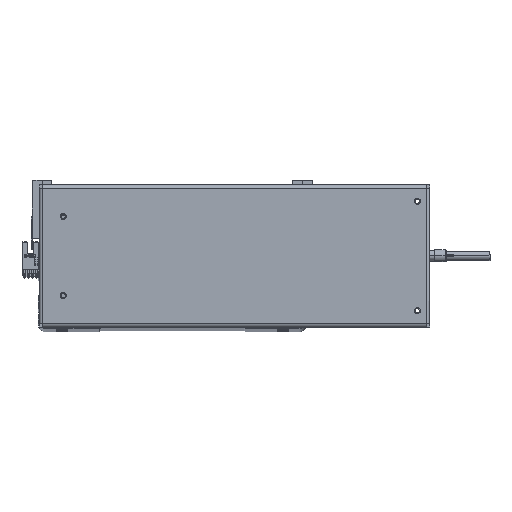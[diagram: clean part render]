
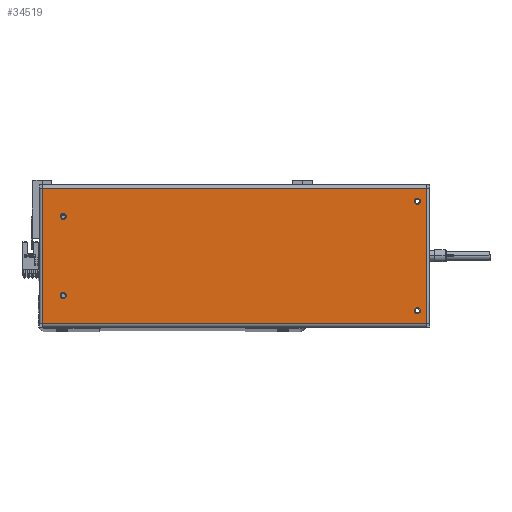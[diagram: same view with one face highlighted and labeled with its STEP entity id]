
A CAD part, top view. The second image highlights one B-rep face of the part: STEP entity #34519.
In plain terms, the highlighted planar face has unit normal (0, 0, 1).
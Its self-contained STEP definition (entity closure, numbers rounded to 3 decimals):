
#587 = CARTESIAN_POINT ( 'NONE',  ( 150.5, -45., 0. ) ) ;
#1241 = VECTOR ( 'NONE', #33676, 1000. ) ;
#1932 = FACE_BOUND ( 'NONE', #41224, .T. ) ;
#1953 = EDGE_CURVE ( 'NONE', #12573, #27559, #17876, .T. ) ;
#2534 = CARTESIAN_POINT ( 'NONE',  ( -138., 32.5, 0. ) ) ;
#2546 = DIRECTION ( 'NONE',  ( 1., 0., 0. ) ) ;
#2607 = DIRECTION ( 'NONE',  ( 1., 0., 0. ) ) ;
#2911 = EDGE_CURVE ( 'NONE', #24213, #3886, #33008, .T. ) ;
#2937 = FACE_BOUND ( 'NONE', #10547, .T. ) ;
#3055 = DIRECTION ( 'NONE',  ( 0., 0., 1. ) ) ;
#3086 = CARTESIAN_POINT ( 'NONE',  ( -140.5, -32.5, 0. ) ) ;
#3168 = ORIENTED_EDGE ( 'NONE', *, *, #4882, .F. ) ;
#3660 = VECTOR ( 'NONE', #36083, 1000. ) ;
#3886 = VERTEX_POINT ( 'NONE', #17372 ) ;
#3919 = CIRCLE ( 'NONE', #40780, 2.5 ) ;
#4882 = EDGE_CURVE ( 'NONE', #41154, #41858, #3919, .T. ) ;
#5428 = CARTESIAN_POINT ( 'NONE',  ( 157.7, 58.5, 0. ) ) ;
#5900 = CARTESIAN_POINT ( 'NONE',  ( 157.6, 55.6, 0. ) ) ;
#6044 = EDGE_CURVE ( 'NONE', #41183, #26625, #29215, .T. ) ;
#6529 = ORIENTED_EDGE ( 'NONE', *, *, #41698, .F. ) ;
#6560 = ORIENTED_EDGE ( 'NONE', *, *, #6044, .F. ) ;
#8013 = FACE_BOUND ( 'NONE', #15443, .T. ) ;
#8302 = CARTESIAN_POINT ( 'NONE',  ( 157.6, -55.6, 0. ) ) ;
#8745 = ORIENTED_EDGE ( 'NONE', *, *, #18972, .F. ) ;
#8859 = CARTESIAN_POINT ( 'NONE',  ( 150.5, 45., 0. ) ) ;
#9713 = CARTESIAN_POINT ( 'NONE',  ( 150.5, -45., 0. ) ) ;
#9892 = AXIS2_PLACEMENT_3D ( 'NONE', #9713, #3055, #13144 ) ;
#10547 = EDGE_LOOP ( 'NONE', ( #6560, #36354 ) ) ;
#10580 = VERTEX_POINT ( 'NONE', #13631 ) ;
#10664 = CARTESIAN_POINT ( 'NONE',  ( -140.5, 32.5, 0. ) ) ;
#10845 = CARTESIAN_POINT ( 'NONE',  ( 150.5, 45., 0. ) ) ;
#11191 = EDGE_CURVE ( 'NONE', #18838, #10580, #22141, .T. ) ;
#11472 = CARTESIAN_POINT ( 'NONE',  ( -143., 32.5, 0. ) ) ;
#12573 = VERTEX_POINT ( 'NONE', #38526 ) ;
#12683 = CARTESIAN_POINT ( 'NONE',  ( -143., -32.5, 0. ) ) ;
#12719 = DIRECTION ( 'NONE',  ( 1., 0., 0. ) ) ;
#13144 = DIRECTION ( 'NONE',  ( 1., 0., 0. ) ) ;
#13631 = CARTESIAN_POINT ( 'NONE',  ( 153., 45., 0. ) ) ;
#15270 = ORIENTED_EDGE ( 'NONE', *, *, #2911, .F. ) ;
#15443 = EDGE_LOOP ( 'NONE', ( #3168, #8745 ) ) ;
#15535 = AXIS2_PLACEMENT_3D ( 'NONE', #40867, #24651, #12719 ) ;
#15558 = DIRECTION ( 'NONE',  ( 0., 0., 1. ) ) ;
#15765 = CARTESIAN_POINT ( 'NONE',  ( -140.5, -32.5, 0. ) ) ;
#15932 = EDGE_LOOP ( 'NONE', ( #15270, #36258 ) ) ;
#16208 = AXIS2_PLACEMENT_3D ( 'NONE', #5428, #40795, #25000 ) ;
#16461 = EDGE_LOOP ( 'NONE', ( #40563, #35299, #21064, #36675 ) ) ;
#16986 = CARTESIAN_POINT ( 'NONE',  ( 153., -45., 0. ) ) ;
#17229 = DIRECTION ( 'NONE',  ( 0., 0., 1. ) ) ;
#17372 = CARTESIAN_POINT ( 'NONE',  ( 148., -45., 0. ) ) ;
#17837 = AXIS2_PLACEMENT_3D ( 'NONE', #10845, #27064, #20817 ) ;
#17876 = LINE ( 'NONE', #39213, #3660 ) ;
#18838 = VERTEX_POINT ( 'NONE', #23928 ) ;
#18972 = EDGE_CURVE ( 'NONE', #41858, #41154, #19943, .T. ) ;
#19922 = ORIENTED_EDGE ( 'NONE', *, *, #11191, .F. ) ;
#19943 = CIRCLE ( 'NONE', #34370, 2.5 ) ;
#20817 = DIRECTION ( 'NONE',  ( 1., 0., 0. ) ) ;
#20872 = EDGE_CURVE ( 'NONE', #27559, #25693, #22146, .T. ) ;
#21064 = ORIENTED_EDGE ( 'NONE', *, *, #20872, .T. ) ;
#21216 = CARTESIAN_POINT ( 'NONE',  ( -157.6, 55.6, 0. ) ) ;
#21350 = VERTEX_POINT ( 'NONE', #21216 ) ;
#21717 = CARTESIAN_POINT ( 'NONE',  ( -138., -32.5, 0. ) ) ;
#22141 = CIRCLE ( 'NONE', #17837, 2.5 ) ;
#22146 = LINE ( 'NONE', #38304, #32274 ) ;
#23072 = AXIS2_PLACEMENT_3D ( 'NONE', #587, #17229, #39678 ) ;
#23899 = CARTESIAN_POINT ( 'NONE',  ( 157.7, 55.6, 0. ) ) ;
#23928 = CARTESIAN_POINT ( 'NONE',  ( 148., 45., 0. ) ) ;
#24213 = VERTEX_POINT ( 'NONE', #16986 ) ;
#24591 = PLANE ( 'NONE',  #16208 ) ;
#24651 = DIRECTION ( 'NONE',  ( 0., 0., 1. ) ) ;
#24916 = DIRECTION ( 'NONE',  ( 0., 1., 0. ) ) ;
#25000 = DIRECTION ( 'NONE',  ( -1., 0., 0. ) ) ;
#25068 = CIRCLE ( 'NONE', #36559, 2.5 ) ;
#25119 = DIRECTION ( 'NONE',  ( 0., 0., 1. ) ) ;
#25693 = VERTEX_POINT ( 'NONE', #5900 ) ;
#25694 = EDGE_CURVE ( 'NONE', #21350, #12573, #36035, .T. ) ;
#25810 = DIRECTION ( 'NONE',  ( 0., 0., 1. ) ) ;
#25952 = AXIS2_PLACEMENT_3D ( 'NONE', #10664, #39981, #40251 ) ;
#26625 = VERTEX_POINT ( 'NONE', #11472 ) ;
#27064 = DIRECTION ( 'NONE',  ( 0., 0., 1. ) ) ;
#27175 = LINE ( 'NONE', #23899, #1241 ) ;
#27368 = VECTOR ( 'NONE', #41422, 1000. ) ;
#27559 = VERTEX_POINT ( 'NONE', #8302 ) ;
#29085 = DIRECTION ( 'NONE',  ( 1., 0., 0. ) ) ;
#29215 = CIRCLE ( 'NONE', #15535, 2.5 ) ;
#29902 = FACE_OUTER_BOUND ( 'NONE', #16461, .T. ) ;
#31876 = CARTESIAN_POINT ( 'NONE',  ( -157.6, 55.6, 0. ) ) ;
#32274 = VECTOR ( 'NONE', #24916, 1000. ) ;
#33008 = CIRCLE ( 'NONE', #23072, 2.5 ) ;
#33676 = DIRECTION ( 'NONE',  ( -1., 0., 0. ) ) ;
#34084 = EDGE_CURVE ( 'NONE', #3886, #24213, #34480, .T. ) ;
#34370 = AXIS2_PLACEMENT_3D ( 'NONE', #3086, #25810, #29085 ) ;
#34480 = CIRCLE ( 'NONE', #9892, 2.5 ) ;
#34519 = ADVANCED_FACE ( 'NONE', ( #8013, #2937, #41576, #1932, #29902 ), #24591, .F. ) ;
#35299 = ORIENTED_EDGE ( 'NONE', *, *, #1953, .T. ) ;
#36035 = LINE ( 'NONE', #31876, #27368 ) ;
#36083 = DIRECTION ( 'NONE',  ( 1., 0., 0. ) ) ;
#36258 = ORIENTED_EDGE ( 'NONE', *, *, #34084, .F. ) ;
#36354 = ORIENTED_EDGE ( 'NONE', *, *, #42064, .F. ) ;
#36559 = AXIS2_PLACEMENT_3D ( 'NONE', #8859, #15558, #2607 ) ;
#36675 = ORIENTED_EDGE ( 'NONE', *, *, #40774, .T. ) ;
#38304 = CARTESIAN_POINT ( 'NONE',  ( 157.6, -55.6, 0. ) ) ;
#38526 = CARTESIAN_POINT ( 'NONE',  ( -157.6, -55.6, 0. ) ) ;
#39213 = CARTESIAN_POINT ( 'NONE',  ( -157.7, -55.6, 0. ) ) ;
#39678 = DIRECTION ( 'NONE',  ( 1., 0., 0. ) ) ;
#39981 = DIRECTION ( 'NONE',  ( 0., 0., 1. ) ) ;
#40251 = DIRECTION ( 'NONE',  ( 1., 0., 0. ) ) ;
#40563 = ORIENTED_EDGE ( 'NONE', *, *, #25694, .T. ) ;
#40774 = EDGE_CURVE ( 'NONE', #25693, #21350, #27175, .T. ) ;
#40780 = AXIS2_PLACEMENT_3D ( 'NONE', #15765, #25119, #2546 ) ;
#40795 = DIRECTION ( 'NONE',  ( 0., 0., -1. ) ) ;
#40867 = CARTESIAN_POINT ( 'NONE',  ( -140.5, 32.5, 0. ) ) ;
#41154 = VERTEX_POINT ( 'NONE', #21717 ) ;
#41183 = VERTEX_POINT ( 'NONE', #2534 ) ;
#41224 = EDGE_LOOP ( 'NONE', ( #6529, #19922 ) ) ;
#41268 = CIRCLE ( 'NONE', #25952, 2.5 ) ;
#41422 = DIRECTION ( 'NONE',  ( 0., -1., 0. ) ) ;
#41576 = FACE_BOUND ( 'NONE', #15932, .T. ) ;
#41698 = EDGE_CURVE ( 'NONE', #10580, #18838, #25068, .T. ) ;
#41858 = VERTEX_POINT ( 'NONE', #12683 ) ;
#42064 = EDGE_CURVE ( 'NONE', #26625, #41183, #41268, .T. ) ;
